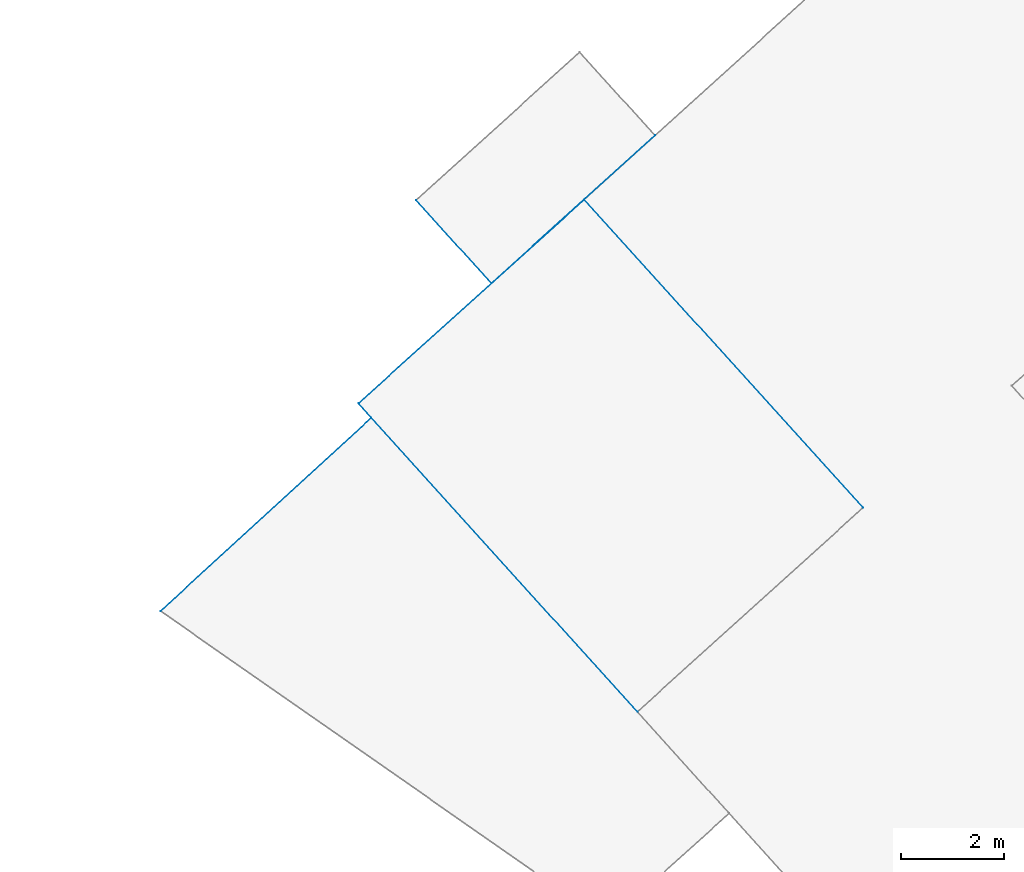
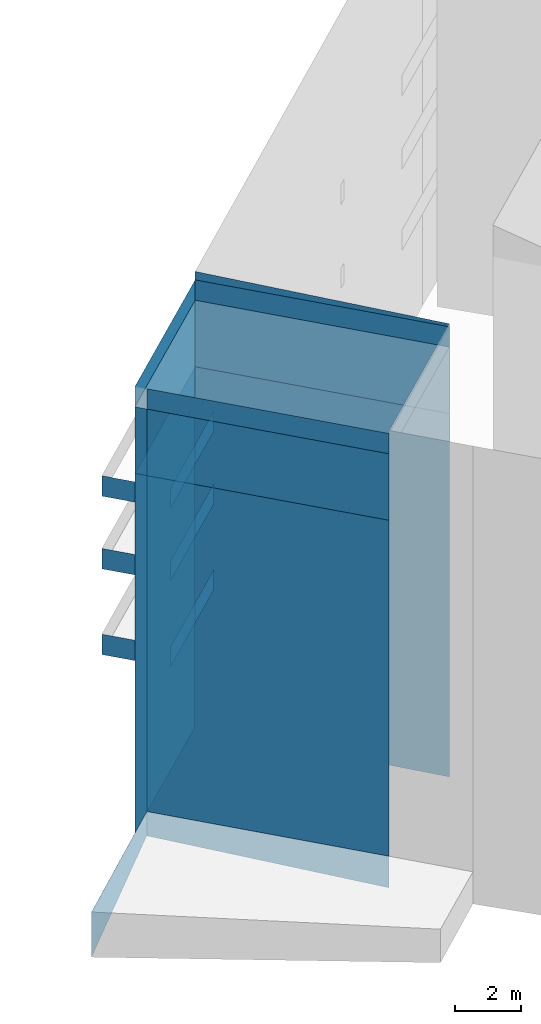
# Not in any storey, part 6 of 136: 27 walls.
"""IFC4 building model written with IfcOpenShell, lengths in metres."""

from ifc_helpers import new_model, entity, si_unit, converted_unit, origin, place, context, subcontext, project, spatial, face_set, surface_model, element, save


model = new_model("IFC4")

# Units and contexts
model_context = context("Model", 3, precision=1e-05, world=origin())
body_context = subcontext(model_context, "Body", "Model", "MODEL_VIEW")
ifc_project = project(units=[converted_unit("PLANEANGLEUNIT", "DEGREE", entity("IfcRatioMeasure", 0.0174532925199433), si_unit("PLANEANGLEUNIT", "RADIAN"), dimensions=[0, 0, 0, 0, 0, 0, 0]), si_unit("AREAUNIT", "SQUARE_METRE"), si_unit("LENGTHUNIT", "METRE")], contexts=[model_context])

# Site, building
site_placement = place(None, origin())
site = spatial("IfcSite", under=ifc_project, at=site_placement, Name="_site")
building_placement = place(site_placement, origin())
building = spatial("IfcBuilding", under=site, at=building_placement, Name="_building")

# Walls
wall_1_placement = place(building_placement, origin())
element("IfcWall", 1, at=wall_1_placement, inside=building, Name="Wall", PredefinedType="NOTDEFINED", context=body_context, shape_type="SurfaceModel", body=[
    surface_model("IfcFaceBasedSurfaceModel", [(47.27, 1.34, 44.76), (44.1, -1.53, 44.76), (44.1, -1.53, 45.51), (47.27, 1.34, 45.51)], [face_set([[[0, 1, 2, 3]]])]),
])
wall_2_placement = place(building_placement, origin())
element("IfcWall", 2, at=wall_2_placement, inside=building, Name="Wall", PredefinedType="NOTDEFINED", context=body_context, shape_type="SurfaceModel", body=[
    surface_model("IfcFaceBasedSurfaceModel", [(44.1, -1.53, 44.76), (42.64, 0.08, 44.76), (42.64, 0.08, 45.51), (44.1, -1.53, 45.51)], [face_set([[[0, 1, 2, 3]]])]),
])
wall_3_placement = place(building_placement, origin())
element("IfcWall", 3, at=wall_3_placement, inside=building, Name="Wall", PredefinedType="NOTDEFINED", context=body_context, shape_type="SurfaceModel", body=[
    surface_model("IfcFaceBasedSurfaceModel", [(47.27, 1.34, 44.76), (44.1, -1.53, 44.76), (44.1, -1.53, 45.51), (47.27, 1.34, 45.51)], [face_set([[[0, 1, 2, 3]]])]),
])
wall_4_placement = place(building_placement, origin())
element("IfcWall", 4, at=wall_4_placement, inside=building, Name="Wall", PredefinedType="NOTDEFINED", context=body_context, shape_type="SurfaceModel", body=[
    surface_model("IfcFaceBasedSurfaceModel", [(44.1, -1.53, 44.76), (42.64, 0.08, 44.76), (42.64, 0.08, 45.51), (44.1, -1.53, 45.51)], [face_set([[[0, 1, 2, 3]]])]),
])
wall_5_placement = place(building_placement, origin())
element("IfcWall", 5, at=wall_5_placement, inside=building, Name="Wall", PredefinedType="NOTDEFINED", context=body_context, shape_type="SurfaceModel", body=[
    surface_model("IfcFaceBasedSurfaceModel", [(45.9, 0.09, 53.51), (51.31, -5.88, 53.51), (51.31, -5.88, 37.67), (45.9, 0.09, 37.775)], [face_set([[[0, 1, 2, 3]]])]),
])
wall_6_placement = place(building_placement, origin())
element("IfcWall", 6, at=wall_6_placement, inside=building, Name="Wall", PredefinedType="NOTDEFINED", context=body_context, shape_type="SurfaceModel", body=[
    surface_model("IfcFaceBasedSurfaceModel", [(41.52, -3.86, 53.51), (45.9, 0.09, 53.51), (45.9, 0.09, 37.775), (41.52, -3.86, 37.777)], [face_set([[[0, 1, 2, 3]]])]),
])
wall_7_placement = place(building_placement, origin())
element("IfcWall", 7, at=wall_7_placement, inside=building, Name="Wall", PredefinedType="NOTDEFINED", context=body_context, shape_type="SurfaceModel", body=[
    surface_model("IfcFaceBasedSurfaceModel", [(41.77, -4.14, 53.51), (41.52, -3.86, 53.51), (41.52, -3.86, 37.777), (41.77, -4.14, 37.781)], [face_set([[[0, 1, 2, 3]]])]),
])
wall_8_placement = place(building_placement, origin())
element("IfcWall", 8, at=wall_8_placement, inside=building, Name="Wall", PredefinedType="NOTDEFINED", context=body_context, shape_type="SurfaceModel", body=[
    surface_model("IfcFaceBasedSurfaceModel", [(46.93, -9.84, 53.51), (41.77, -4.14, 53.51), (41.77, -4.14, 37.781), (46.93, -9.84, 37.513)], [face_set([[[0, 1, 2, 3]]])]),
])
wall_9_placement = place(building_placement, origin())
element("IfcWall", 9, at=wall_9_placement, inside=building, Name="Wall", PredefinedType="NOTDEFINED", context=body_context, shape_type="SurfaceModel", body=[
    surface_model("IfcFaceBasedSurfaceModel", [(47.27, 1.34, 47.44), (44.1, -1.53, 47.44), (44.1, -1.53, 48.19), (47.27, 1.34, 48.19)], [face_set([[[0, 1, 2, 3]]])]),
])
wall_10_placement = place(building_placement, origin())
element("IfcWall", 10, at=wall_10_placement, inside=building, Name="Wall", PredefinedType="NOTDEFINED", context=body_context, shape_type="SurfaceModel", body=[
    surface_model("IfcFaceBasedSurfaceModel", [(44.1, -1.53, 47.44), (42.64, 0.08, 47.44), (42.64, 0.08, 48.19), (44.1, -1.53, 48.19)], [face_set([[[0, 1, 2, 3]]])]),
])
wall_11_placement = place(building_placement, origin())
element("IfcWall", 11, at=wall_11_placement, inside=building, Name="Wall", PredefinedType="NOTDEFINED", context=body_context, shape_type="SurfaceModel", body=[
    surface_model("IfcFaceBasedSurfaceModel", [(47.27, 1.34, 47.44), (44.1, -1.53, 47.44), (44.1, -1.53, 48.19), (47.27, 1.34, 48.19)], [face_set([[[0, 1, 2, 3]]])]),
])
wall_12_placement = place(building_placement, origin())
element("IfcWall", 12, at=wall_12_placement, inside=building, Name="Wall", PredefinedType="NOTDEFINED", context=body_context, shape_type="SurfaceModel", body=[
    surface_model("IfcFaceBasedSurfaceModel", [(44.1, -1.53, 47.44), (42.64, 0.08, 47.44), (42.64, 0.08, 48.19), (44.1, -1.53, 48.19)], [face_set([[[0, 1, 2, 3]]])]),
])
wall_13_placement = place(building_placement, origin())
element("IfcWall", 13, at=wall_13_placement, inside=building, Name="Wall", PredefinedType="NOTDEFINED", context=body_context, shape_type="SurfaceModel", body=[
    surface_model("IfcFaceBasedSurfaceModel", [(37.68, -7.89, 38.68), (41.77, -4.14, 38.68), (41.77, -4.14, 37.781), (37.68, -7.89, 37.016)], [face_set([[[0, 1, 2, 3]]])]),
])
wall_14_placement = place(building_placement, origin())
element("IfcWall", 14, at=wall_14_placement, inside=building, Name="Wall", PredefinedType="NOTDEFINED", context=body_context, shape_type="SurfaceModel", body=[
    surface_model("IfcFaceBasedSurfaceModel", [(46.93, -9.84, 51.06), (41.77, -4.14, 51.06), (41.77, -4.14, 38.68), (46.93, -9.84, 38.68)], [face_set([[[0, 1, 2, 3]]])]),
])
wall_15_placement = place(building_placement, origin())
element("IfcWall", 15, at=wall_15_placement, inside=building, Name="Wall", PredefinedType="NOTDEFINED", context=body_context, shape_type="SurfaceModel", body=[
    surface_model("IfcFaceBasedSurfaceModel", [(41.52, -3.86, 51.06), (45.9, 0.09, 51.06), (45.9, 0.09, 37.775), (41.52, -3.86, 37.777)], [face_set([[[0, 1, 2, 3]]])]),
])
wall_16_placement = place(building_placement, origin())
element("IfcWall", 16, at=wall_16_placement, inside=building, Name="Wall", PredefinedType="NOTDEFINED", context=body_context, shape_type="SurfaceModel", body=[
    surface_model("IfcFaceBasedSurfaceModel", [(41.77, -4.14, 51.06), (41.52, -3.86, 51.06), (41.52, -3.86, 37.777), (41.77, -4.14, 37.781)], [face_set([[[0, 1, 2, 3]]])]),
])
wall_17_placement = place(building_placement, origin())
element("IfcWall", 17, at=wall_17_placement, inside=building, Name="Wall", PredefinedType="NOTDEFINED", context=body_context, shape_type="SurfaceModel", body=[
    surface_model("IfcFaceBasedSurfaceModel", [(51.31, -5.88, 54.37), (45.9, 0.09, 54.57), (45.9, 0.09, 51.06), (51.31, -5.88, 51.06)], [face_set([[[0, 1, 2, 3]]])]),
])
wall_18_placement = place(building_placement, origin())
element("IfcWall", 18, at=wall_18_placement, inside=building, Name="Wall", PredefinedType="NOTDEFINED", context=body_context, shape_type="SurfaceModel", body=[
    surface_model("IfcFaceBasedSurfaceModel", [(47.27, 1.34, 41.6), (44.1, -1.53, 41.6), (44.1, -1.53, 42.35), (47.27, 1.34, 42.35)], [face_set([[[0, 1, 2, 3]]])]),
])
wall_19_placement = place(building_placement, origin())
element("IfcWall", 19, at=wall_19_placement, inside=building, Name="Wall", PredefinedType="NOTDEFINED", context=body_context, shape_type="SurfaceModel", body=[
    surface_model("IfcFaceBasedSurfaceModel", [(44.1, -1.53, 41.6), (42.64, 0.08, 41.6), (42.64, 0.08, 42.35), (44.1, -1.53, 42.35)], [face_set([[[0, 1, 2, 3]]])]),
])
wall_20_placement = place(building_placement, origin())
element("IfcWall", 20, at=wall_20_placement, inside=building, Name="Wall", PredefinedType="NOTDEFINED", context=body_context, shape_type="SurfaceModel", body=[
    surface_model("IfcFaceBasedSurfaceModel", [(47.27, 1.34, 41.6), (44.1, -1.53, 41.6), (44.1, -1.53, 42.35), (47.27, 1.34, 42.35)], [face_set([[[0, 1, 2, 3]]])]),
])
wall_21_placement = place(building_placement, origin())
element("IfcWall", 21, at=wall_21_placement, inside=building, Name="Wall", PredefinedType="NOTDEFINED", context=body_context, shape_type="SurfaceModel", body=[
    surface_model("IfcFaceBasedSurfaceModel", [(44.1, -1.53, 41.6), (42.64, 0.08, 41.6), (42.64, 0.08, 42.35), (44.1, -1.53, 42.35)], [face_set([[[0, 1, 2, 3]]])]),
])
wall_22_placement = place(building_placement, origin())
element("IfcWall", 22, at=wall_22_placement, inside=building, Name="Wall", PredefinedType="NOTDEFINED", context=body_context, shape_type="SurfaceModel", body=[
    surface_model("IfcFaceBasedSurfaceModel", [(45.9, 0.09, 53.51), (51.31, -5.88, 53.51), (51.31, -5.88, 54.26), (45.9, 0.09, 54.26)], [face_set([[[0, 1, 2, 3]]])]),
])
wall_23_placement = place(building_placement, origin())
element("IfcWall", 23, at=wall_23_placement, inside=building, Name="Wall", PredefinedType="NOTDEFINED", context=body_context, shape_type="SurfaceModel", body=[
    surface_model("IfcFaceBasedSurfaceModel", [(41.52, -3.86, 53.51), (45.9, 0.09, 53.51), (45.9, 0.09, 54.26), (41.52, -3.86, 54.26)], [face_set([[[0, 1, 2, 3]]])]),
])
wall_24_placement = place(building_placement, origin())
element("IfcWall", 24, at=wall_24_placement, inside=building, Name="Wall", PredefinedType="NOTDEFINED", context=body_context, shape_type="SurfaceModel", body=[
    surface_model("IfcFaceBasedSurfaceModel", [(46.93, -9.84, 53.51), (41.77, -4.14, 53.51), (41.77, -4.14, 54.26), (46.93, -9.84, 54.26)], [face_set([[[0, 1, 2, 3]]])]),
])
wall_25_placement = place(building_placement, origin())
element("IfcWall", 25, at=wall_25_placement, inside=building, Name="Wall", PredefinedType="NOTDEFINED", context=body_context, shape_type="SurfaceModel", body=[
    surface_model("IfcFaceBasedSurfaceModel", [(45.9, 0.09, 53.51), (51.31, -5.88, 53.51), (51.31, -5.88, 54.26), (45.9, 0.09, 54.26)], [face_set([[[0, 1, 2, 3]]])]),
])
wall_26_placement = place(building_placement, origin())
element("IfcWall", 26, at=wall_26_placement, inside=building, Name="Wall", PredefinedType="NOTDEFINED", context=body_context, shape_type="SurfaceModel", body=[
    surface_model("IfcFaceBasedSurfaceModel", [(41.52, -3.86, 53.51), (45.9, 0.09, 53.51), (45.9, 0.09, 54.26), (41.52, -3.86, 54.26)], [face_set([[[0, 1, 2, 3]]])]),
])
wall_27_placement = place(building_placement, origin())
element("IfcWall", 27, at=wall_27_placement, inside=building, Name="Wall", PredefinedType="NOTDEFINED", context=body_context, shape_type="SurfaceModel", body=[
    surface_model("IfcFaceBasedSurfaceModel", [(46.93, -9.84, 53.51), (41.77, -4.14, 53.51), (41.77, -4.14, 54.26), (46.93, -9.84, 54.26)], [face_set([[[0, 1, 2, 3]]])]),
])

save(model, "model.ifc")
